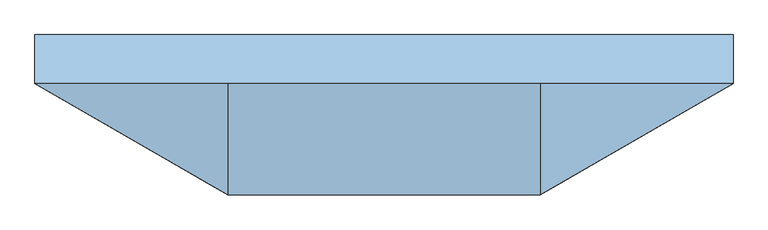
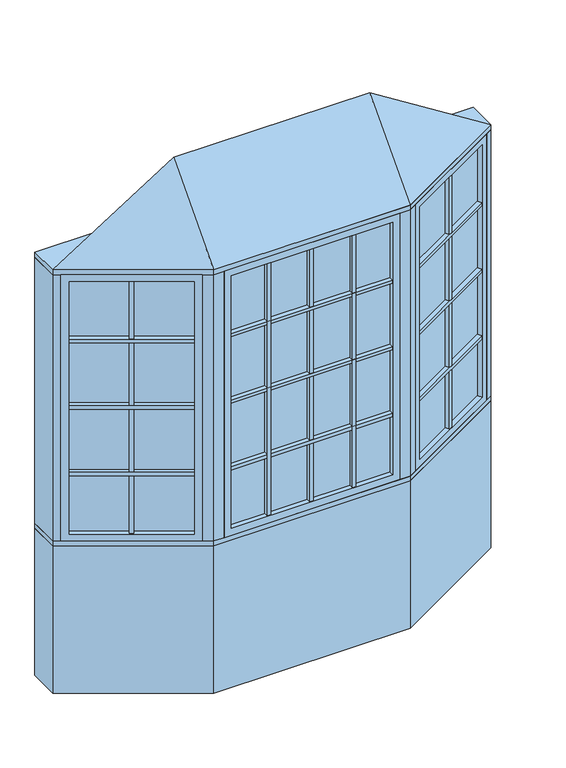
"""IFC4 building model written with IfcOpenShell, lengths in millimetres: window geometry, Pollard_Windows_Tudor Casement Bows and Bays : AML-BAY 30 AFR0514-12-600_GC."""

from ifc_helpers import new_model, si_unit, frame, origin, origin_with_axes, place, context, project, spatial, polyline, outline, extrude, faceted_brep, source, transform, mapped, element, save


def window_ea5e7c73(model_context):
    return source(origin(), model_context, "Body", "SolidModel", [
        extrude(outline(polyline([(560.381999, -376.6297343), (549.381999, -357.5771754), (1015.6135794, -88.3982469), (1026.6135794, -107.4508058), (560.381999, -376.6297343)])), frame((0.0, 0.0, 1490.998), z_axis=(0.0, 0.0, 1.0), x_axis=(1.0, 0.0, 0.0)), (0.0, 0.0, 1.0), 18.0),
        extrude(outline(polyline([(546.841999, -353.1777664), (535.841999, -334.1252075), (1002.0735794, -64.946279), (1013.0735794, -83.9988379), (546.841999, -353.1777664)])), frame((0.0, 0.0, 1490.998), z_axis=(0.0, 0.0, 1.0), x_axis=(1.0, 0.0, 0.0)), (0.0, 0.0, 1.0), 18.0),
        extrude(outline(polyline([(560.381999, -376.6297343), (549.381999, -357.5771754), (1015.6135794, -88.3982469), (1026.6135794, -107.4508058), (560.381999, -376.6297343)])), frame((0.0, 0.0, 1140.998), z_axis=(0.0, 0.0, 1.0), x_axis=(1.0, 0.0, 0.0)), (0.0, 0.0, 1.0), 18.0),
        extrude(outline(polyline([(546.841999, -353.1777664), (535.841999, -334.1252075), (1002.0735794, -64.946279), (1013.0735794, -83.9988379), (546.841999, -353.1777664)])), frame((0.0, 0.0, 1140.998), z_axis=(0.0, 0.0, 1.0), x_axis=(1.0, 0.0, 0.0)), (0.0, 0.0, 1.0), 18.0),
        extrude(outline(polyline([(560.381999, -376.6297343), (549.381999, -357.5771754), (1015.6135794, -88.3982469), (1026.6135794, -107.4508058), (560.381999, -376.6297343)])), frame((0.0, 0.0, 1490.998), z_axis=(0.0, 0.0, 1.0), x_axis=(1.0, 0.0, 0.0)), (0.0, 0.0, 1.0), 18.0),
        extrude(outline(polyline([(546.841999, -353.1777664), (535.841999, -334.1252075), (1002.0735794, -64.946279), (1013.0735794, -83.9988379), (546.841999, -353.1777664)])), frame((0.0, 0.0, 1490.998), z_axis=(0.0, 0.0, 1.0), x_axis=(1.0, 0.0, 0.0)), (0.0, 0.0, 1.0), 18.0),
        extrude(outline(polyline([(560.381999, -376.6297343), (549.381999, -357.5771754), (1015.6135794, -88.3982469), (1026.6135794, -107.4508058), (560.381999, -376.6297343)])), frame((0.0, 0.0, 1490.998), z_axis=(0.0, 0.0, 1.0), x_axis=(1.0, 0.0, 0.0)), (0.0, 0.0, 1.0), 18.0),
        extrude(outline(polyline([(546.841999, -353.1777664), (535.841999, -334.1252075), (1002.0735794, -64.946279), (1013.0735794, -83.9988379), (546.841999, -353.1777664)])), frame((0.0, 0.0, 1490.998), z_axis=(0.0, 0.0, 1.0), x_axis=(1.0, 0.0, 0.0)), (0.0, 0.0, 1.0), 18.0),
        extrude(outline(polyline([(560.381999, -376.6297343), (549.381999, -357.5771754), (1015.6135794, -88.3982469), (1026.6135794, -107.4508058), (560.381999, -376.6297343)])), frame((0.0, 0.0, 1840.998), z_axis=(0.0, 0.0, 1.0), x_axis=(1.0, 0.0, 0.0)), (0.0, 0.0, 1.0), 18.0),
        extrude(outline(polyline([(546.841999, -353.1777664), (535.841999, -334.1252075), (1002.0735794, -64.946279), (1013.0735794, -83.9988379), (546.841999, -353.1777664)])), frame((0.0, 0.0, 1840.998), z_axis=(0.0, 0.0, 1.0), x_axis=(1.0, 0.0, 0.0)), (0.0, 0.0, 1.0), 18.0),
        extrude(outline(polyline([(790.2920178, -218.4877112), (801.2920178, -237.5402701), (785.7035606, -246.5402701), (774.7035606, -227.4877112), (790.2920178, -218.4877112)])), frame((0.0, 0.0, 835.8628), z_axis=(0.0, 0.0, 1.0), x_axis=(1.0, 0.0, 0.0)), (0.0, 0.0, 1.0), 1328.2704),
        extrude(outline(polyline([(787.7520178, -214.0883021), (772.1635606, -223.0883021), (761.1635606, -204.0357432), (776.7520178, -195.0357432), (787.7520178, -214.0883021)])), frame((0.0, 0.0, 835.8628), z_axis=(0.0, 0.0, 1.0), x_axis=(1.0, 0.0, 0.0)), (0.0, 0.0, 1.0), 1328.2704),
        extrude(outline(polyline([(1026.612102, -82.0482469), (538.3834764, -363.9271754), (535.8434764, -359.5277664), (1024.072102, -77.6488379), (1026.612102, -82.0482469)])), frame((0.0, 0.0, 823.1628), z_axis=(0.0, 0.0, 1.0), x_axis=(1.0, 0.0, 0.0)), (0.0, 0.0, 1.0), 1353.6704),
        faceted_brep([(1015.6135794, -88.3982469, 835.8628), (1028.3135794, -110.3952922, 835.8628), (1028.3135794, -110.3952922, 2164.1332), (1015.6135794, -88.3982469, 2164.1332), (1024.072102, -77.6488379, 823.1628), (1026.612102, -82.0482469, 823.1628), (1026.612102, -82.0482469, 2176.8332), (1024.072102, -77.6488379, 2176.8332), (1000.3735794, -62.0017926, 835.8628), (1013.0735794, -83.9988379, 835.8628), (1013.0735794, -83.9988379, 2164.1332), (1000.3735794, -62.0017926, 2164.1332), (1059.3734073, -92.4628922, 799.998), (1031.4334073, -44.0693926, 799.998), (1031.4334073, -44.0693926, 2199.998), (1059.3734073, -92.4628922, 2199.998), (562.081999, -379.5742207, 2164.1332), (549.381999, -357.5771754, 2164.1332), (538.3834764, -363.9271754, 2176.8332), (535.8434764, -359.5277664, 2176.8332), (546.841999, -353.1777664, 2164.1332), (534.141999, -331.1807211, 2164.1332), (503.0821711, -349.1131211, 2199.998), (531.0221711, -397.5066207, 2199.998), (562.081999, -379.5742207, 835.8628), (549.381999, -357.5771754, 835.8628), (538.3834764, -363.9271754, 823.1628), (535.8434764, -359.5277664, 823.1628), (546.841999, -353.1777664, 835.8628), (534.141999, -331.1807211, 835.8628), (503.0821711, -349.1131211, 799.998), (531.0221711, -397.5066207, 799.998)], [[[0, 1, 2, 3]], [[4, 5, 6, 7]], [[8, 9, 10, 11]], [[12, 13, 14, 15]], [[3, 2, 16, 17]], [[7, 6, 18, 19]], [[11, 10, 20, 21]], [[15, 14, 22, 23]], [[17, 16, 24, 25]], [[19, 18, 26, 27]], [[21, 20, 28, 29]], [[23, 22, 30, 31]], [[25, 24, 1, 0]], [[5, 26, 18, 6], [3, 17, 25, 0]], [[27, 26, 5, 4]], [[7, 19, 27, 4], [9, 28, 20, 10]], [[29, 28, 9, 8]], [[13, 30, 22, 14], [11, 21, 29, 8]], [[31, 30, 13, 12]], [[15, 23, 31, 12], [1, 24, 16, 2]]]),
        extrude(outline(polyline([(220.7781504, -397.1066207), (220.7781504, -419.1066207), (202.7781504, -419.1066207), (202.7781504, -397.1066207), (220.7781504, -397.1066207)])), frame((0.0, 0.0, 835.8628), z_axis=(0.0, 0.0, 1.0), x_axis=(1.0, 0.0, 0.0)), (0.0, 0.0, 1.0), 1328.2704),
        extrude(outline(polyline([(220.7781504, -392.0266207), (202.7781504, -392.0266207), (202.7781504, -370.0266207), (220.7781504, -370.0266207), (220.7781504, -392.0266207)])), frame((0.0, 0.0, 835.8628), z_axis=(0.0, 0.0, 1.0), x_axis=(1.0, 0.0, 0.0)), (0.0, 0.0, 1.0), 1328.2704),
        extrude(outline(polyline([(-202.7781504, -397.1066207), (-202.7781504, -419.1066207), (-220.7781504, -419.1066207), (-220.7781504, -397.1066207), (-202.7781504, -397.1066207)])), frame((0.0, 0.0, 835.8628), z_axis=(0.0, 0.0, 1.0), x_axis=(1.0, 0.0, 0.0)), (0.0, 0.0, 1.0), 1328.2704),
        extrude(outline(polyline([(-202.7781504, -392.0266207), (-220.7781504, -392.0266207), (-220.7781504, -370.0266207), (-202.7781504, -370.0266207), (-202.7781504, -392.0266207)])), frame((0.0, 0.0, 835.8628), z_axis=(0.0, 0.0, 1.0), x_axis=(1.0, 0.0, 0.0)), (0.0, 0.0, 1.0), 1328.2704),
        extrude(outline(polyline([(-401.8561009, -419.1066207), (-401.8561009, -397.1066207), (401.8561009, -397.1066207), (401.8561009, -419.1066207), (-401.8561009, -419.1066207)])), frame((0.0, 0.0, 1140.998), z_axis=(0.0, 0.0, 1.0), x_axis=(1.0, 0.0, 0.0)), (0.0, 0.0, 1.0), 18.0),
        extrude(outline(polyline([(-401.8561009, -392.0266207), (-401.8561009, -370.0266207), (401.8561009, -370.0266207), (401.8561009, -392.0266207), (-401.8561009, -392.0266207)])), frame((0.0, 0.0, 1140.998), z_axis=(0.0, 0.0, 1.0), x_axis=(1.0, 0.0, 0.0)), (0.0, 0.0, 1.0), 18.0),
        extrude(outline(polyline([(-401.8561009, -419.1066207), (-401.8561009, -397.1066207), (401.8561009, -397.1066207), (401.8561009, -419.1066207), (-401.8561009, -419.1066207)])), frame((0.0, 0.0, 1490.998), z_axis=(0.0, 0.0, 1.0), x_axis=(1.0, 0.0, 0.0)), (0.0, 0.0, 1.0), 18.0),
        extrude(outline(polyline([(-401.8561009, -392.0266207), (-401.8561009, -370.0266207), (401.8561009, -370.0266207), (401.8561009, -392.0266207), (-401.8561009, -392.0266207)])), frame((0.0, 0.0, 1490.998), z_axis=(0.0, 0.0, 1.0), x_axis=(1.0, 0.0, 0.0)), (0.0, 0.0, 1.0), 18.0),
        extrude(outline(polyline([(-401.8561009, -419.1066207), (-401.8561009, -397.1066207), (401.8561009, -397.1066207), (401.8561009, -419.1066207), (-401.8561009, -419.1066207)])), frame((0.0, 0.0, 1490.998), z_axis=(0.0, 0.0, 1.0), x_axis=(1.0, 0.0, 0.0)), (0.0, 0.0, 1.0), 18.0),
        extrude(outline(polyline([(-401.8561009, -392.0266207), (-401.8561009, -370.0266207), (401.8561009, -370.0266207), (401.8561009, -392.0266207), (-401.8561009, -392.0266207)])), frame((0.0, 0.0, 1490.998), z_axis=(0.0, 0.0, 1.0), x_axis=(1.0, 0.0, 0.0)), (0.0, 0.0, 1.0), 18.0),
        extrude(outline(polyline([(-401.8561009, -419.1066207), (-401.8561009, -397.1066207), (401.8561009, -397.1066207), (401.8561009, -419.1066207), (-401.8561009, -419.1066207)])), frame((0.0, 0.0, 1490.998), z_axis=(0.0, 0.0, 1.0), x_axis=(1.0, 0.0, 0.0)), (0.0, 0.0, 1.0), 18.0),
        extrude(outline(polyline([(-401.8561009, -392.0266207), (-401.8561009, -370.0266207), (401.8561009, -370.0266207), (401.8561009, -392.0266207), (-401.8561009, -392.0266207)])), frame((0.0, 0.0, 1490.998), z_axis=(0.0, 0.0, 1.0), x_axis=(1.0, 0.0, 0.0)), (0.0, 0.0, 1.0), 18.0),
        extrude(outline(polyline([(-1026.6135794, -107.4508058), (-1015.6135794, -88.3982469), (-549.381999, -357.5771754), (-560.381999, -376.6297343), (-1026.6135794, -107.4508058)])), frame((0.0, 0.0, 1140.998), z_axis=(0.0, 0.0, 1.0), x_axis=(1.0, 0.0, 0.0)), (0.0, 0.0, 1.0), 18.0),
        extrude(outline(polyline([(-1013.0735794, -83.9988379), (-1002.0735794, -64.946279), (-535.841999, -334.1252075), (-546.841999, -353.1777664), (-1013.0735794, -83.9988379)])), frame((0.0, 0.0, 1140.998), z_axis=(0.0, 0.0, 1.0), x_axis=(1.0, 0.0, 0.0)), (0.0, 0.0, 1.0), 18.0),
        extrude(outline(polyline([(-1026.6135794, -107.4508058), (-1015.6135794, -88.3982469), (-549.381999, -357.5771754), (-560.381999, -376.6297343), (-1026.6135794, -107.4508058)])), frame((0.0, 0.0, 1490.998), z_axis=(0.0, 0.0, 1.0), x_axis=(1.0, 0.0, 0.0)), (0.0, 0.0, 1.0), 18.0),
        extrude(outline(polyline([(-1013.0735794, -83.9988379), (-1002.0735794, -64.946279), (-535.841999, -334.1252075), (-546.841999, -353.1777664), (-1013.0735794, -83.9988379)])), frame((0.0, 0.0, 1490.998), z_axis=(0.0, 0.0, 1.0), x_axis=(1.0, 0.0, 0.0)), (0.0, 0.0, 1.0), 18.0),
        extrude(outline(polyline([(-1026.6135794, -107.4508058), (-1015.6135794, -88.3982469), (-549.381999, -357.5771754), (-560.381999, -376.6297343), (-1026.6135794, -107.4508058)])), frame((0.0, 0.0, 1490.998), z_axis=(0.0, 0.0, 1.0), x_axis=(1.0, 0.0, 0.0)), (0.0, 0.0, 1.0), 18.0),
        extrude(outline(polyline([(-1013.0735794, -83.9988379), (-1002.0735794, -64.946279), (-535.841999, -334.1252075), (-546.841999, -353.1777664), (-1013.0735794, -83.9988379)])), frame((0.0, 0.0, 1490.998), z_axis=(0.0, 0.0, 1.0), x_axis=(1.0, 0.0, 0.0)), (0.0, 0.0, 1.0), 18.0),
        extrude(outline(polyline([(-1026.6135794, -107.4508058), (-1015.6135794, -88.3982469), (-549.381999, -357.5771754), (-560.381999, -376.6297343), (-1026.6135794, -107.4508058)])), frame((0.0, 0.0, 1490.998), z_axis=(0.0, 0.0, 1.0), x_axis=(1.0, 0.0, 0.0)), (0.0, 0.0, 1.0), 18.0),
        extrude(outline(polyline([(-1013.0735794, -83.9988379), (-1002.0735794, -64.946279), (-535.841999, -334.1252075), (-546.841999, -353.1777664), (-1013.0735794, -83.9988379)])), frame((0.0, 0.0, 1490.998), z_axis=(0.0, 0.0, 1.0), x_axis=(1.0, 0.0, 0.0)), (0.0, 0.0, 1.0), 18.0),
        extrude(outline(polyline([(-1026.6135794, -107.4508058), (-1015.6135794, -88.3982469), (-549.381999, -357.5771754), (-560.381999, -376.6297343), (-1026.6135794, -107.4508058)])), frame((0.0, 0.0, 1840.998), z_axis=(0.0, 0.0, 1.0), x_axis=(1.0, 0.0, 0.0)), (0.0, 0.0, 1.0), 18.0),
        extrude(outline(polyline([(-1013.0735794, -83.9988379), (-1002.0735794, -64.946279), (-535.841999, -334.1252075), (-546.841999, -353.1777664), (-1013.0735794, -83.9988379)])), frame((0.0, 0.0, 1840.998), z_axis=(0.0, 0.0, 1.0), x_axis=(1.0, 0.0, 0.0)), (0.0, 0.0, 1.0), 18.0),
        extrude(outline(polyline([(-401.8561009, -419.1066207), (-401.8561009, -397.1066207), (401.8561009, -397.1066207), (401.8561009, -419.1066207), (-401.8561009, -419.1066207)])), frame((0.0, 0.0, 1840.998), z_axis=(0.0, 0.0, 1.0), x_axis=(1.0, 0.0, 0.0)), (0.0, 0.0, 1.0), 18.0),
        extrude(outline(polyline([(-401.8561009, -392.0266207), (-401.8561009, -370.0266207), (401.8561009, -370.0266207), (401.8561009, -392.0266207), (-401.8561009, -392.0266207)])), frame((0.0, 0.0, 1840.998), z_axis=(0.0, 0.0, 1.0), x_axis=(1.0, 0.0, 0.0)), (0.0, 0.0, 1.0), 18.0),
        extrude(outline(polyline([(-774.7035606, -227.4877112), (-785.7035606, -246.5402701), (-801.2920178, -237.5402701), (-790.2920178, -218.4877112), (-774.7035606, -227.4877112)])), frame((0.0, 0.0, 835.8628), z_axis=(0.0, 0.0, 1.0), x_axis=(1.0, 0.0, 0.0)), (0.0, 0.0, 1.0), 1328.2704),
        extrude(outline(polyline([(-772.1635606, -223.0883021), (-787.7520178, -214.0883021), (-776.7520178, -195.0357432), (-761.1635606, -204.0357432), (-772.1635606, -223.0883021)])), frame((0.0, 0.0, 835.8628), z_axis=(0.0, 0.0, 1.0), x_axis=(1.0, 0.0, 0.0)), (0.0, 0.0, 1.0), 1328.2704),
        extrude(outline(polyline([(9.0, -397.1066207), (9.0, -419.1066207), (-9.0, -419.1066207), (-9.0, -397.1066207), (9.0, -397.1066207)])), frame((0.0, 0.0, 835.8628), z_axis=(0.0, 0.0, 1.0), x_axis=(1.0, 0.0, 0.0)), (0.0, 0.0, 1.0), 1328.2704),
        extrude(outline(polyline([(9.0, -392.0266207), (-9.0, -392.0266207), (-9.0, -370.0266207), (9.0, -370.0266207), (9.0, -392.0266207)])), frame((0.0, 0.0, 835.8628), z_axis=(0.0, 0.0, 1.0), x_axis=(1.0, 0.0, 0.0)), (0.0, 0.0, 1.0), 1328.2704),
        extrude(outline(polyline([(-538.3834764, -363.9271754), (-1026.612102, -82.0482469), (-1024.072102, -77.6488379), (-535.8434764, -359.5277664), (-538.3834764, -363.9271754)])), frame((0.0, 0.0, 823.1628), z_axis=(0.0, 0.0, 1.0), x_axis=(1.0, 0.0, 0.0)), (0.0, 0.0, 1.0), 1353.6704),
        faceted_brep([(-546.841999, -353.1777664, 2164.1332), (-534.141999, -331.1807211, 2164.1332), (-534.141999, -331.1807211, 835.8628), (-546.841999, -353.1777664, 835.8628), (-538.3834764, -363.9271754, 2176.8332), (-535.8434764, -359.5277664, 2176.8332), (-535.8434764, -359.5277664, 823.1628), (-538.3834764, -363.9271754, 823.1628), (-562.081999, -379.5742207, 2164.1332), (-549.381999, -357.5771754, 2164.1332), (-549.381999, -357.5771754, 835.8628), (-562.081999, -379.5742207, 835.8628), (-503.0821711, -349.1131211, 2199.998), (-531.0221711, -397.5066207, 2199.998), (-531.0221711, -397.5066207, 799.998), (-503.0821711, -349.1131211, 799.998), (-1000.3735794, -62.0017926, 835.8628), (-1013.0735794, -83.9988379, 835.8628), (-1024.072102, -77.6488379, 823.1628), (-1026.612102, -82.0482469, 823.1628), (-1015.6135794, -88.3982469, 835.8628), (-1028.3135794, -110.3952922, 835.8628), (-1059.3734073, -92.4628922, 799.998), (-1031.4334073, -44.0693926, 799.998), (-1000.3735794, -62.0017926, 2164.1332), (-1013.0735794, -83.9988379, 2164.1332), (-1024.072102, -77.6488379, 2176.8332), (-1026.612102, -82.0482469, 2176.8332), (-1015.6135794, -88.3982469, 2164.1332), (-1028.3135794, -110.3952922, 2164.1332), (-1059.3734073, -92.4628922, 2199.998), (-1031.4334073, -44.0693926, 2199.998)], [[[0, 1, 2, 3]], [[4, 5, 6, 7]], [[8, 9, 10, 11]], [[12, 13, 14, 15]], [[3, 2, 16, 17]], [[7, 6, 18, 19]], [[11, 10, 20, 21]], [[15, 14, 22, 23]], [[17, 16, 24, 25]], [[19, 18, 26, 27]], [[21, 20, 28, 29]], [[23, 22, 30, 31]], [[15, 23, 31, 12], [1, 24, 16, 2]], [[25, 24, 1, 0]], [[5, 26, 18, 6], [3, 17, 25, 0]], [[27, 26, 5, 4]], [[7, 19, 27, 4], [9, 28, 20, 10]], [[29, 28, 9, 8]], [[13, 30, 22, 14], [11, 21, 29, 8]], [[31, 30, 13, 12]]]),
        extrude(outline(polyline([(414.5561009, -397.1066207), (-414.5561009, -397.1066207), (-414.5561009, -392.0266207), (414.5561009, -392.0266207), (414.5561009, -397.1066207)])), frame((0.0, 0.0, 823.1628), z_axis=(0.0, 0.0, 1.0), x_axis=(1.0, 0.0, 0.0)), (0.0, 0.0, 1.0), 1353.6704),
        faceted_brep([(401.8561009, -397.1066207, 835.8628), (401.8561009, -422.5066207, 835.8628), (401.8561009, -422.5066207, 2164.1332), (401.8561009, -397.1066207, 2164.1332), (414.5561009, -392.0266207, 823.1628), (414.5561009, -397.1066207, 823.1628), (414.5561009, -397.1066207, 2176.8332), (414.5561009, -392.0266207, 2176.8332), (401.8561009, -366.6266207, 835.8628), (401.8561009, -392.0266207, 835.8628), (401.8561009, -392.0266207, 2164.1332), (401.8561009, -366.6266207, 2164.1332), (437.7209009, -422.5066207, 799.998), (437.7209009, -366.6266207, 799.998), (437.7209009, -366.6266207, 2199.998), (437.7209009, -422.5066207, 2199.998), (-401.8561009, -422.5066207, 2164.1332), (-401.8561009, -397.1066207, 2164.1332), (-414.5561009, -397.1066207, 2176.8332), (-414.5561009, -392.0266207, 2176.8332), (-401.8561009, -392.0266207, 2164.1332), (-401.8561009, -366.6266207, 2164.1332), (-437.7209009, -366.6266207, 2199.998), (-437.7209009, -422.5066207, 2199.998), (-401.8561009, -422.5066207, 835.8628), (-401.8561009, -397.1066207, 835.8628), (-414.5561009, -397.1066207, 823.1628), (-414.5561009, -392.0266207, 823.1628), (-401.8561009, -392.0266207, 835.8628), (-401.8561009, -366.6266207, 835.8628), (-437.7209009, -366.6266207, 799.998), (-437.7209009, -422.5066207, 799.998)], [[[0, 1, 2, 3]], [[4, 5, 6, 7]], [[8, 9, 10, 11]], [[12, 13, 14, 15]], [[3, 2, 16, 17]], [[7, 6, 18, 19]], [[11, 10, 20, 21]], [[15, 14, 22, 23]], [[17, 16, 24, 25]], [[19, 18, 26, 27]], [[21, 20, 28, 29]], [[23, 22, 30, 31]], [[15, 23, 31, 12], [1, 24, 16, 2]], [[25, 24, 1, 0]], [[5, 26, 18, 6], [3, 17, 25, 0]], [[27, 26, 5, 4]], [[7, 19, 27, 4], [9, 28, 20, 10]], [[29, 28, 9, 8]], [[13, 30, 22, 14], [11, 21, 29, 8]], [[31, 30, 13, 12]]]),
        faceted_brep([(1090.0, -74.7806207, 2225.398), (487.7209009, -422.5066207, 2225.398), (-487.7209009, -422.5066207, 2225.398), (-1090.0, -74.7806207, 2225.398), (-487.7209009, -74.7806207, 2606.398), (487.7209009, -74.7806207, 2606.398)], [[[0, 1, 2, 3]], [[3, 2, 4]], [[2, 1, 5, 4]], [[1, 0, 5]], [[0, 3, 4, 5]]]),
        extrude(outline(polyline([(-1090.0, 77.6193793), (1090.0, 77.6193793), (1090.0, -74.7806207), (487.7209009, -422.5066207), (-487.7209009, -422.5066207), (-1090.0, -74.7806207), (-1090.0, 77.6193793)])), frame((0.0, 0.0, 2199.998), z_axis=(0.0, 0.0, 1.0), x_axis=(1.0, 0.0, 0.0)), (0.0, 0.0, 1.0), 25.4),
        extrude(outline(polyline([(-1090.0, -74.7806207), (-1090.0, 77.6193793), (-1049.1645431, 77.6193793), (-1049.1645431, -74.7806207), (-1059.3734073, -92.4628922), (-1090.0, -74.7806207)])), frame((0.0, 0.0, 799.998), z_axis=(0.0, 0.0, 1.0), x_axis=(1.0, 0.0, 0.0)), (0.0, 0.0, 1.0), 1400.0),
        extrude(outline(polyline([(1090.0, 77.6193793), (1090.0, -74.7806207), (1059.3734073, -92.4628922), (1049.1645431, -74.7806207), (1049.1645431, 77.6193793), (1090.0, 77.6193793)])), frame((0.0, 0.0, 799.998), z_axis=(0.0, 0.0, 1.0), x_axis=(1.0, 0.0, 0.0)), (0.0, 0.0, 1.0), 1400.0),
        extrude(outline(polyline([(487.7209009, -422.5066207), (437.7209009, -422.5066207), (437.7209009, -372.5066207), (474.3234413, -372.5066207), (506.0221711, -354.2053505), (531.0221711, -397.5066207), (487.7209009, -422.5066207)])), frame((0.0, 0.0, 799.998), z_axis=(0.0, 0.0, 1.0), x_axis=(1.0, 0.0, 0.0)), (0.0, 0.0, 1.0), 1400.0),
        extrude(outline(polyline([(-487.7209009, -422.5066207), (-531.0221711, -397.5066207), (-506.0221711, -354.2053505), (-474.3234413, -372.5066207), (-437.7209009, -372.5066207), (-437.7209009, -422.5066207), (-487.7209009, -422.5066207)])), frame((0.0, 0.0, 799.998), z_axis=(0.0, 0.0, 1.0), x_axis=(1.0, 0.0, 0.0)), (0.0, 0.0, 1.0), 1400.0),
        extrude(outline(polyline([(-487.7209009, -422.5066207), (-1090.0, -74.7806207), (-1090.0, 77.6193793), (-1049.1645431, 77.6193793), (-446.885444, -270.1066207), (446.885444, -270.1066207), (1049.1645431, 77.6193793), (1090.0, 77.6193793), (1090.0, -74.7806207), (487.7209009, -422.5066207), (-487.7209009, -422.5066207)])), frame((0.0, 0.0, 774.598), z_axis=(0.0, 0.0, 1.0), x_axis=(1.0, 0.0, 0.0)), (0.0, 0.0, 1.0), 25.4),
        extrude(outline(polyline([(-1090.0, -74.7806207), (-1090.0, 77.6193793), (-1049.1645431, 77.6193793), (-446.885444, -270.1066207), (446.885444, -270.1066207), (1049.1645431, 77.6193793), (1090.0, 77.6193793), (1090.0, -74.7806207), (487.7209009, -422.5066207), (-487.7209009, -422.5066207), (-1090.0, -74.7806207)])), origin_with_axes(), (0.0, 0.0, 1.0), 774.598),
    ])


if __name__ == "__main__":
    model = new_model("IFC4")
    model_context = context("Model", 3, world=origin())
    ifc_project = project(units=[si_unit("LENGTHUNIT", "METRE", prefix="MILLI")], contexts=[model_context])
    site = spatial("IfcSite", under=ifc_project)
    building = spatial("IfcBuilding", under=site)
    placement = place(None, origin())
    window_shape = window_ea5e7c73(model_context)
    element("IfcWindow", 1, ObjectType="Pollard_Windows_Tudor Casement Bows and Bays : AML-BAY 30 AFR0514-12-600_GC", at=placement, inside=building, context=model_context, shape_type="MappedRepresentation", body=[
        mapped(window_shape, transform((0.0, 0.0, 0.0), x_axis=(1.0, 0.0, 0.0), y_axis=(0.0, 1.0, 0.0), z_axis=(0.0, 0.0, 1.0))),
    ])
    save(model, "model.ifc")
